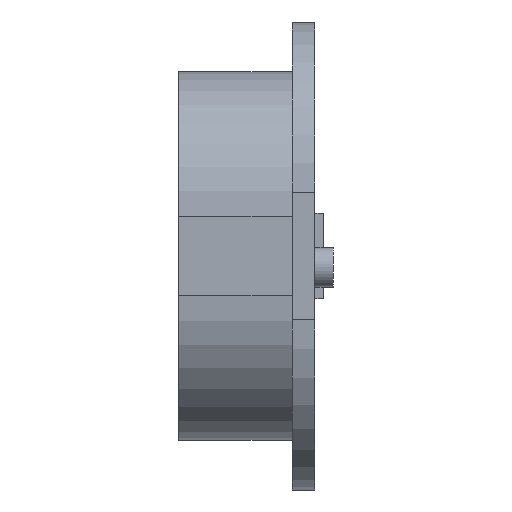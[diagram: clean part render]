
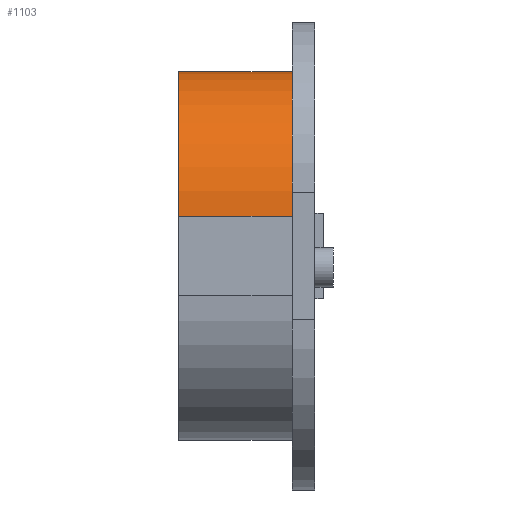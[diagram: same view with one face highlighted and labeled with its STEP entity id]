
A CAD part, front view. The second image highlights one B-rep face of the part: STEP entity #1103.
In plain terms, the highlighted cylindrical face has radius 5.1 mm (diameter 10.2 mm), a partial arc.
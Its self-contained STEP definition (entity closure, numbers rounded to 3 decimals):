
#44 = PLANE('',#45);
#45 = AXIS2_PLACEMENT_3D('',#46,#47,#48);
#46 = CARTESIAN_POINT('',(-40.7,-26.3,8.25));
#47 = DIRECTION('',(-1.,0.,0.));
#48 = DIRECTION('',(0.,0.,1.));
#340 = EDGE_CURVE('',#341,#343,#345,.T.);
#341 = VERTEX_POINT('',#342);
#342 = CARTESIAN_POINT('',(-40.7,-19.7,6.5));
#343 = VERTEX_POINT('',#344);
#344 = CARTESIAN_POINT('',(-40.7,-24.8,1.4));
#345 = SURFACE_CURVE('',#346,(#351,#362),.PCURVE_S1.);
#346 = CIRCLE('',#347,5.1);
#347 = AXIS2_PLACEMENT_3D('',#348,#349,#350);
#348 = CARTESIAN_POINT('',(-40.7,-19.7,1.4));
#349 = DIRECTION('',(1.,0.,0.));
#350 = DIRECTION('',(0.,-1.,0.));
#351 = PCURVE('',#44,#352);
#352 = DEFINITIONAL_REPRESENTATION('',(#353),#361);
#353 = ( BOUNDED_CURVE() B_SPLINE_CURVE(2,(#354,#355,#356,#357,#358,#359
,#360),.UNSPECIFIED.,.T.,.F.) B_SPLINE_CURVE_WITH_KNOTS((1,2,2,2,2,1),(
    -2.094,0.,2.094,4.189,6.283,
8.378),.UNSPECIFIED.) CURVE() GEOMETRIC_REPRESENTATION_ITEM() 
RATIONAL_B_SPLINE_CURVE((1.,0.5,1.,0.5,1.,0.5,1.)) REPRESENTATION_ITEM(
  '') );
#354 = CARTESIAN_POINT('',(-6.85,1.5));
#355 = CARTESIAN_POINT('',(-15.683,1.5));
#356 = CARTESIAN_POINT('',(-11.267,9.15));
#357 = CARTESIAN_POINT('',(-6.85,16.8));
#358 = CARTESIAN_POINT('',(-2.433,9.15));
#359 = CARTESIAN_POINT('',(1.983,1.5));
#360 = CARTESIAN_POINT('',(-6.85,1.5));
#361 = ( GEOMETRIC_REPRESENTATION_CONTEXT(2) 
PARAMETRIC_REPRESENTATION_CONTEXT() REPRESENTATION_CONTEXT('2D SPACE',''
  ) );
#362 = PCURVE('',#363,#368);
#363 = CYLINDRICAL_SURFACE('',#364,5.1);
#364 = AXIS2_PLACEMENT_3D('',#365,#366,#367);
#365 = CARTESIAN_POINT('',(-40.9,-19.7,1.4));
#366 = DIRECTION('',(-1.,-0.,0.));
#367 = DIRECTION('',(0.,0.,1.));
#368 = DEFINITIONAL_REPRESENTATION('',(#369),#373);
#369 = LINE('',#370,#371);
#370 = CARTESIAN_POINT('',(10.996,-0.2));
#371 = VECTOR('',#372,1.);
#372 = DIRECTION('',(-1.,0.));
#373 = ( GEOMETRIC_REPRESENTATION_CONTEXT(2) 
PARAMETRIC_REPRESENTATION_CONTEXT() REPRESENTATION_CONTEXT('2D SPACE',''
  ) );
#391 = PLANE('',#392);
#392 = AXIS2_PLACEMENT_3D('',#393,#394,#395);
#393 = CARTESIAN_POINT('',(-40.9,-24.8,6.5));
#394 = DIRECTION('',(0.,-0.,-1.));
#395 = DIRECTION('',(1.,0.,0.));
#564 = PLANE('',#565);
#565 = AXIS2_PLACEMENT_3D('',#566,#567,#568);
#566 = CARTESIAN_POINT('',(-40.9,-24.8,6.5));
#567 = DIRECTION('',(-0.,1.,-0.));
#568 = DIRECTION('',(1.,0.,0.));
#1103 = ADVANCED_FACE('',(#1104),#363,.T.);
#1104 = FACE_BOUND('',#1105,.T.);
#1105 = EDGE_LOOP('',(#1106,#1141,#1162,#1163));
#1106 = ORIENTED_EDGE('',*,*,#1107,.T.);
#1107 = EDGE_CURVE('',#1108,#1110,#1112,.T.);
#1108 = VERTEX_POINT('',#1109);
#1109 = CARTESIAN_POINT('',(-44.7,-19.7,6.5));
#1110 = VERTEX_POINT('',#1111);
#1111 = CARTESIAN_POINT('',(-44.7,-24.8,1.4));
#1112 = SURFACE_CURVE('',#1113,(#1118,#1125),.PCURVE_S1.);
#1113 = CIRCLE('',#1114,5.1);
#1114 = AXIS2_PLACEMENT_3D('',#1115,#1116,#1117);
#1115 = CARTESIAN_POINT('',(-44.7,-19.7,1.4));
#1116 = DIRECTION('',(1.,0.,0.));
#1117 = DIRECTION('',(0.,-1.,0.));
#1118 = PCURVE('',#363,#1119);
#1119 = DEFINITIONAL_REPRESENTATION('',(#1120),#1124);
#1120 = LINE('',#1121,#1122);
#1121 = CARTESIAN_POINT('',(10.996,3.8));
#1122 = VECTOR('',#1123,1.);
#1123 = DIRECTION('',(-1.,0.));
#1124 = ( GEOMETRIC_REPRESENTATION_CONTEXT(2) 
PARAMETRIC_REPRESENTATION_CONTEXT() REPRESENTATION_CONTEXT('2D SPACE',''
  ) );
#1125 = PCURVE('',#1126,#1131);
#1126 = PLANE('',#1127);
#1127 = AXIS2_PLACEMENT_3D('',#1128,#1129,#1130);
#1128 = CARTESIAN_POINT('',(-44.7,-24.8,6.5));
#1129 = DIRECTION('',(-1.,0.,0.));
#1130 = DIRECTION('',(0.,0.,1.));
#1131 = DEFINITIONAL_REPRESENTATION('',(#1132),#1140);
#1132 = ( BOUNDED_CURVE() B_SPLINE_CURVE(2,(#1133,#1134,#1135,#1136,
#1137,#1138,#1139),.UNSPECIFIED.,.T.,.F.) B_SPLINE_CURVE_WITH_KNOTS((1,2
    ,2,2,2,1),(-2.094,0.,2.094,4.189,
6.283,8.378),.UNSPECIFIED.) CURVE() 
GEOMETRIC_REPRESENTATION_ITEM() RATIONAL_B_SPLINE_CURVE((1.,0.5,1.,0.5,
1.,0.5,1.)) REPRESENTATION_ITEM('') );
#1133 = CARTESIAN_POINT('',(-5.1,0.));
#1134 = CARTESIAN_POINT('',(-13.933,0.));
#1135 = CARTESIAN_POINT('',(-9.517,7.65));
#1136 = CARTESIAN_POINT('',(-5.1,15.3));
#1137 = CARTESIAN_POINT('',(-0.683,7.65));
#1138 = CARTESIAN_POINT('',(3.733,0.));
#1139 = CARTESIAN_POINT('',(-5.1,0.));
#1140 = ( GEOMETRIC_REPRESENTATION_CONTEXT(2) 
PARAMETRIC_REPRESENTATION_CONTEXT() REPRESENTATION_CONTEXT('2D SPACE',''
  ) );
#1141 = ORIENTED_EDGE('',*,*,#1142,.F.);
#1142 = EDGE_CURVE('',#343,#1110,#1143,.T.);
#1143 = SURFACE_CURVE('',#1144,(#1148,#1155),.PCURVE_S1.);
#1144 = LINE('',#1145,#1146);
#1145 = CARTESIAN_POINT('',(-40.7,-24.8,1.4));
#1146 = VECTOR('',#1147,1.);
#1147 = DIRECTION('',(-1.,-0.,0.));
#1148 = PCURVE('',#363,#1149);
#1149 = DEFINITIONAL_REPRESENTATION('',(#1150),#1154);
#1150 = LINE('',#1151,#1152);
#1151 = CARTESIAN_POINT('',(4.712,-0.2));
#1152 = VECTOR('',#1153,1.);
#1153 = DIRECTION('',(-0.,1.));
#1154 = ( GEOMETRIC_REPRESENTATION_CONTEXT(2) 
PARAMETRIC_REPRESENTATION_CONTEXT() REPRESENTATION_CONTEXT('2D SPACE',''
  ) );
#1155 = PCURVE('',#564,#1156);
#1156 = DEFINITIONAL_REPRESENTATION('',(#1157),#1161);
#1157 = LINE('',#1158,#1159);
#1158 = CARTESIAN_POINT('',(0.2,5.1));
#1159 = VECTOR('',#1160,1.);
#1160 = DIRECTION('',(-1.,0.));
#1161 = ( GEOMETRIC_REPRESENTATION_CONTEXT(2) 
PARAMETRIC_REPRESENTATION_CONTEXT() REPRESENTATION_CONTEXT('2D SPACE',''
  ) );
#1162 = ORIENTED_EDGE('',*,*,#340,.F.);
#1163 = ORIENTED_EDGE('',*,*,#1164,.T.);
#1164 = EDGE_CURVE('',#341,#1108,#1165,.T.);
#1165 = SURFACE_CURVE('',#1166,(#1170,#1177),.PCURVE_S1.);
#1166 = LINE('',#1167,#1168);
#1167 = CARTESIAN_POINT('',(-40.7,-19.7,6.5));
#1168 = VECTOR('',#1169,1.);
#1169 = DIRECTION('',(-1.,-0.,-0.));
#1170 = PCURVE('',#363,#1171);
#1171 = DEFINITIONAL_REPRESENTATION('',(#1172),#1176);
#1172 = LINE('',#1173,#1174);
#1173 = CARTESIAN_POINT('',(6.283,-0.2));
#1174 = VECTOR('',#1175,1.);
#1175 = DIRECTION('',(-0.,1.));
#1176 = ( GEOMETRIC_REPRESENTATION_CONTEXT(2) 
PARAMETRIC_REPRESENTATION_CONTEXT() REPRESENTATION_CONTEXT('2D SPACE',''
  ) );
#1177 = PCURVE('',#391,#1178);
#1178 = DEFINITIONAL_REPRESENTATION('',(#1179),#1183);
#1179 = LINE('',#1180,#1181);
#1180 = CARTESIAN_POINT('',(0.2,-5.1));
#1181 = VECTOR('',#1182,1.);
#1182 = DIRECTION('',(-1.,0.));
#1183 = ( GEOMETRIC_REPRESENTATION_CONTEXT(2) 
PARAMETRIC_REPRESENTATION_CONTEXT() REPRESENTATION_CONTEXT('2D SPACE',''
  ) );
